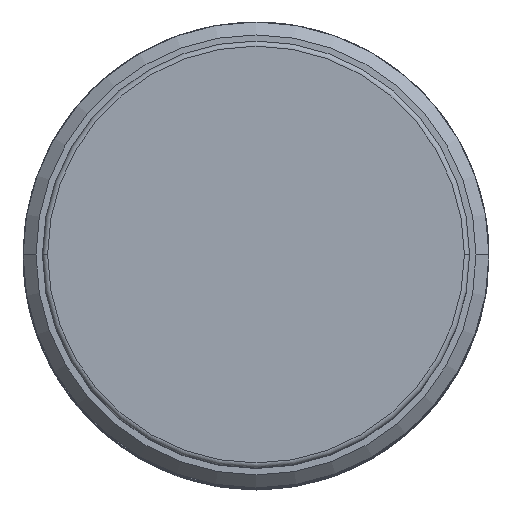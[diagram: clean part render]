
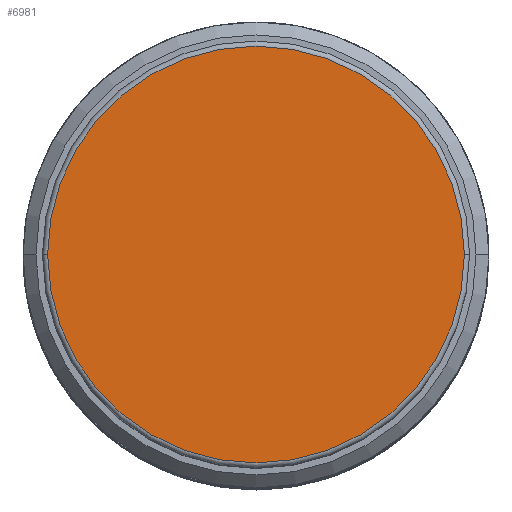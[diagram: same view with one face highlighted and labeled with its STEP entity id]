
A CAD part, top view. The second image highlights one B-rep face of the part: STEP entity #6981.
In plain terms, the highlighted planar face has unit normal (0, 0, 1).
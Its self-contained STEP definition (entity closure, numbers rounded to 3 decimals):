
#118 = CARTESIAN_POINT ( 'NONE',  ( 0., 0., 47. ) ) ;
#886 = EDGE_CURVE ( 'NONE', #6552, #8599, #4121, .T. ) ;
#1037 = AXIS2_PLACEMENT_3D ( 'NONE', #5078, #5977, #7004 ) ;
#1709 = EDGE_LOOP ( 'NONE', ( #2001, #8316 ) ) ;
#2001 = ORIENTED_EDGE ( 'NONE', *, *, #886, .T. ) ;
#2612 = DIRECTION ( 'NONE',  ( 0., 0., 1. ) ) ;
#3498 = PLANE ( 'NONE',  #11663 ) ;
#4002 = DIRECTION ( 'NONE',  ( 1., 0., 0. ) ) ;
#4121 = CIRCLE ( 'NONE', #11250, 8.05 ) ;
#5078 = CARTESIAN_POINT ( 'NONE',  ( 0., 0., 47. ) ) ;
#5513 = CARTESIAN_POINT ( 'NONE',  ( -8.05, 0., 47. ) ) ;
#5796 = DIRECTION ( 'NONE',  ( 0., 0., 1. ) ) ;
#5977 = DIRECTION ( 'NONE',  ( 0., 0., 1. ) ) ;
#6251 = DIRECTION ( 'NONE',  ( 1., 0., 0. ) ) ;
#6552 = VERTEX_POINT ( 'NONE', #8910 ) ;
#6981 = ADVANCED_FACE ( 'NONE', ( #10334 ), #3498, .T. ) ;
#7004 = DIRECTION ( 'NONE',  ( 1., 0., 0. ) ) ;
#7959 = CIRCLE ( 'NONE', #1037, 8.05 ) ;
#8316 = ORIENTED_EDGE ( 'NONE', *, *, #12511, .T. ) ;
#8599 = VERTEX_POINT ( 'NONE', #5513 ) ;
#8910 = CARTESIAN_POINT ( 'NONE',  ( 8.05, 0., 47. ) ) ;
#10334 = FACE_OUTER_BOUND ( 'NONE', #1709, .T. ) ;
#11250 = AXIS2_PLACEMENT_3D ( 'NONE', #118, #5796, #4002 ) ;
#11663 = AXIS2_PLACEMENT_3D ( 'NONE', #12316, #2612, #6251 ) ;
#12316 = CARTESIAN_POINT ( 'NONE',  ( 0., 0., 47. ) ) ;
#12511 = EDGE_CURVE ( 'NONE', #8599, #6552, #7959, .T. ) ;
